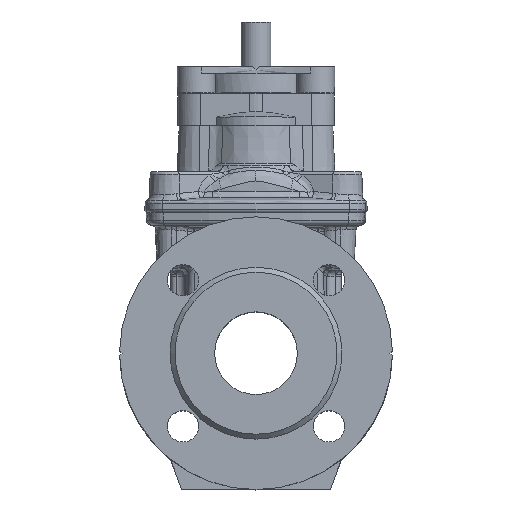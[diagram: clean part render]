
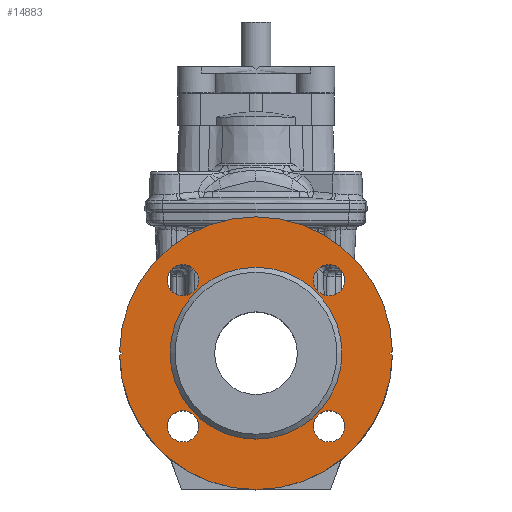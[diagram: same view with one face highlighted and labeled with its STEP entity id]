
A CAD part, top view. The second image highlights one B-rep face of the part: STEP entity #14883.
In plain terms, the highlighted planar face has unit normal (0, 0, 1).
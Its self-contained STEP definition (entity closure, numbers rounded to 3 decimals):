
#109 = VERTEX_POINT ( 'NONE', #356 ) ;
#119 = EDGE_LOOP ( 'NONE', ( #13790, #19610, #235, #21986, #4403, #17590 ) ) ;
#235 = ORIENTED_EDGE ( 'NONE', *, *, #485, .T. ) ;
#247 = CARTESIAN_POINT ( 'NONE',  ( -34.694, -44.194, 72. ) ) ;
#356 = CARTESIAN_POINT ( 'NONE',  ( -82.487, 1.487, 72. ) ) ;
#470 = CARTESIAN_POINT ( 'NONE',  ( 0., 0., 72. ) ) ;
#485 = EDGE_CURVE ( 'NONE', #10702, #7780, #23863, .T. ) ;
#747 = LINE ( 'NONE', #12081, #12606 ) ;
#750 = CIRCLE ( 'NONE', #3951, 82.5 ) ;
#1000 = CARTESIAN_POINT ( 'NONE',  ( 0., 0., 72. ) ) ;
#1039 = DIRECTION ( 'NONE',  ( 0.707, 0.707, 0. ) ) ;
#1140 = DIRECTION ( 'NONE',  ( -1., 0., 0. ) ) ;
#1163 = CARTESIAN_POINT ( 'NONE',  ( 105.715, 24.715, 72. ) ) ;
#1312 = CARTESIAN_POINT ( 'NONE',  ( 82.487, -1.487, 72. ) ) ;
#1411 = FACE_OUTER_BOUND ( 'NONE', #119, .T. ) ;
#1727 = VERTEX_POINT ( 'NONE', #15073 ) ;
#2000 = DIRECTION ( 'NONE',  ( 0., 0., -1. ) ) ;
#2541 = EDGE_CURVE ( 'NONE', #19054, #109, #747, .T. ) ;
#2579 = CARTESIAN_POINT ( 'NONE',  ( -82.487, -1.487, 72. ) ) ;
#2819 = ORIENTED_EDGE ( 'NONE', *, *, #18959, .F. ) ;
#3154 = ORIENTED_EDGE ( 'NONE', *, *, #3327, .F. ) ;
#3255 = DIRECTION ( 'NONE',  ( 0., 0., 1. ) ) ;
#3327 = EDGE_CURVE ( 'NONE', #1727, #1727, #16876, .T. ) ;
#3513 = CIRCLE ( 'NONE', #16695, 9.5 ) ;
#3865 = CARTESIAN_POINT ( 'NONE',  ( 34.694, -44.194, 72. ) ) ;
#3951 = AXIS2_PLACEMENT_3D ( 'NONE', #1000, #20070, #18328 ) ;
#4177 = DIRECTION ( 'NONE',  ( 1., 0., 0. ) ) ;
#4403 = ORIENTED_EDGE ( 'NONE', *, *, #2541, .F. ) ;
#4487 = AXIS2_PLACEMENT_3D ( 'NONE', #8750, #3255, #7011 ) ;
#5048 = FACE_BOUND ( 'NONE', #16139, .T. ) ;
#5150 = CIRCLE ( 'NONE', #19466, 9.5 ) ;
#5290 = VECTOR ( 'NONE', #15766, 1000. ) ;
#5311 = DIRECTION ( 'NONE',  ( 1., 0., 0. ) ) ;
#5564 = DIRECTION ( 'NONE',  ( 0., 0., 1. ) ) ;
#5908 = CIRCLE ( 'NONE', #11048, 82.5 ) ;
#5912 = ORIENTED_EDGE ( 'NONE', *, *, #7629, .T. ) ;
#5990 = EDGE_LOOP ( 'NONE', ( #5912 ) ) ;
#6158 = AXIS2_PLACEMENT_3D ( 'NONE', #10887, #5564, #5311 ) ;
#6553 = CARTESIAN_POINT ( 'NONE',  ( -14.5, 66.5, 72. ) ) ;
#7011 = DIRECTION ( 'NONE',  ( 1., 0., 0. ) ) ;
#7523 = VERTEX_POINT ( 'NONE', #1312 ) ;
#7629 = EDGE_CURVE ( 'NONE', #11071, #11071, #9840, .T. ) ;
#7710 = DIRECTION ( 'NONE',  ( 1., 0., 0. ) ) ;
#7725 = VERTEX_POINT ( 'NONE', #19063 ) ;
#7780 = VERTEX_POINT ( 'NONE', #22505 ) ;
#8709 = EDGE_LOOP ( 'NONE', ( #3154 ) ) ;
#8750 = CARTESIAN_POINT ( 'NONE',  ( -44.194, -44.194, 72. ) ) ;
#8773 = FACE_BOUND ( 'NONE', #21433, .T. ) ;
#9034 = AXIS2_PLACEMENT_3D ( 'NONE', #10245, #16103, #1140 ) ;
#9078 = EDGE_CURVE ( 'NONE', #15641, #7523, #5908, .T. ) ;
#9335 = VERTEX_POINT ( 'NONE', #3865 ) ;
#9840 = CIRCLE ( 'NONE', #9034, 9.5 ) ;
#10245 = CARTESIAN_POINT ( 'NONE',  ( 44.194, 44.194, 72. ) ) ;
#10456 = ORIENTED_EDGE ( 'NONE', *, *, #13664, .F. ) ;
#10702 = VERTEX_POINT ( 'NONE', #24270 ) ;
#10887 = CARTESIAN_POINT ( 'NONE',  ( 0., 0., 72. ) ) ;
#11048 = AXIS2_PLACEMENT_3D ( 'NONE', #470, #24665, #7710 ) ;
#11071 = VERTEX_POINT ( 'NONE', #11572 ) ;
#11131 = LINE ( 'NONE', #16502, #12443 ) ;
#11221 = CIRCLE ( 'NONE', #4487, 9.5 ) ;
#11572 = CARTESIAN_POINT ( 'NONE',  ( 34.694, 44.194, 72. ) ) ;
#12081 = CARTESIAN_POINT ( 'NONE',  ( -105.715, 24.715, 72. ) ) ;
#12407 = EDGE_CURVE ( 'NONE', #9335, #9335, #3513, .T. ) ;
#12443 = VECTOR ( 'NONE', #18493, 1000. ) ;
#12606 = VECTOR ( 'NONE', #19687, 1000. ) ;
#13664 = EDGE_CURVE ( 'NONE', #7725, #7725, #5150, .T. ) ;
#13790 = ORIENTED_EDGE ( 'NONE', *, *, #9078, .T. ) ;
#14006 = LINE ( 'NONE', #6553, #5290 ) ;
#14268 = EDGE_CURVE ( 'NONE', #7780, #109, #750, .T. ) ;
#14799 = EDGE_LOOP ( 'NONE', ( #18339 ) ) ;
#14883 = ADVANCED_FACE ( 'NONE', ( #8773, #16371, #22117, #5048, #1411, #16615 ), #16492, .T. ) ;
#14954 = CARTESIAN_POINT ( 'NONE',  ( 44.194, -44.194, 72. ) ) ;
#15073 = CARTESIAN_POINT ( 'NONE',  ( 52., 0., 72. ) ) ;
#15395 = DIRECTION ( 'NONE',  ( 0., 0., 1. ) ) ;
#15641 = VERTEX_POINT ( 'NONE', #2579 ) ;
#15766 = DIRECTION ( 'NONE',  ( 0.707, 0.707, 0. ) ) ;
#16103 = DIRECTION ( 'NONE',  ( 0., 0., -1. ) ) ;
#16139 = EDGE_LOOP ( 'NONE', ( #2819 ) ) ;
#16371 = FACE_BOUND ( 'NONE', #14799, .T. ) ;
#16492 = PLANE ( 'NONE',  #17880 ) ;
#16502 = CARTESIAN_POINT ( 'NONE',  ( 14.5, 66.5, 72. ) ) ;
#16615 = FACE_BOUND ( 'NONE', #8709, .T. ) ;
#16695 = AXIS2_PLACEMENT_3D ( 'NONE', #14954, #2000, #18817 ) ;
#16876 = CIRCLE ( 'NONE', #6158, 52. ) ;
#17590 = ORIENTED_EDGE ( 'NONE', *, *, #19403, .F. ) ;
#17880 = AXIS2_PLACEMENT_3D ( 'NONE', #24350, #20231, #22236 ) ;
#18328 = DIRECTION ( 'NONE',  ( 1., 0., 0. ) ) ;
#18339 = ORIENTED_EDGE ( 'NONE', *, *, #12407, .T. ) ;
#18493 = DIRECTION ( 'NONE',  ( -0.707, 0.707, 0. ) ) ;
#18817 = DIRECTION ( 'NONE',  ( -1., 0., 0. ) ) ;
#18938 = VERTEX_POINT ( 'NONE', #247 ) ;
#18959 = EDGE_CURVE ( 'NONE', #18938, #18938, #11221, .T. ) ;
#19054 = VERTEX_POINT ( 'NONE', #24580 ) ;
#19063 = CARTESIAN_POINT ( 'NONE',  ( -34.694, 44.194, 72. ) ) ;
#19403 = EDGE_CURVE ( 'NONE', #15641, #19054, #14006, .T. ) ;
#19466 = AXIS2_PLACEMENT_3D ( 'NONE', #23134, #15395, #4177 ) ;
#19610 = ORIENTED_EDGE ( 'NONE', *, *, #20283, .T. ) ;
#19687 = DIRECTION ( 'NONE',  ( -0.707, 0.707, 0. ) ) ;
#20070 = DIRECTION ( 'NONE',  ( 0., 0., 1. ) ) ;
#20231 = DIRECTION ( 'NONE',  ( 0., 0., 1. ) ) ;
#20283 = EDGE_CURVE ( 'NONE', #7523, #10702, #11131, .T. ) ;
#21433 = EDGE_LOOP ( 'NONE', ( #10456 ) ) ;
#21986 = ORIENTED_EDGE ( 'NONE', *, *, #14268, .T. ) ;
#22088 = VECTOR ( 'NONE', #1039, 1000. ) ;
#22117 = FACE_BOUND ( 'NONE', #5990, .T. ) ;
#22236 = DIRECTION ( 'NONE',  ( 1., 0., 0. ) ) ;
#22505 = CARTESIAN_POINT ( 'NONE',  ( 82.487, 1.487, 72. ) ) ;
#23134 = CARTESIAN_POINT ( 'NONE',  ( -44.194, 44.194, 72. ) ) ;
#23863 = LINE ( 'NONE', #1163, #22088 ) ;
#24270 = CARTESIAN_POINT ( 'NONE',  ( 81., 0., 72. ) ) ;
#24350 = CARTESIAN_POINT ( 'NONE',  ( 0., 52., 72. ) ) ;
#24580 = CARTESIAN_POINT ( 'NONE',  ( -81., 0., 72. ) ) ;
#24665 = DIRECTION ( 'NONE',  ( 0., 0., 1. ) ) ;
